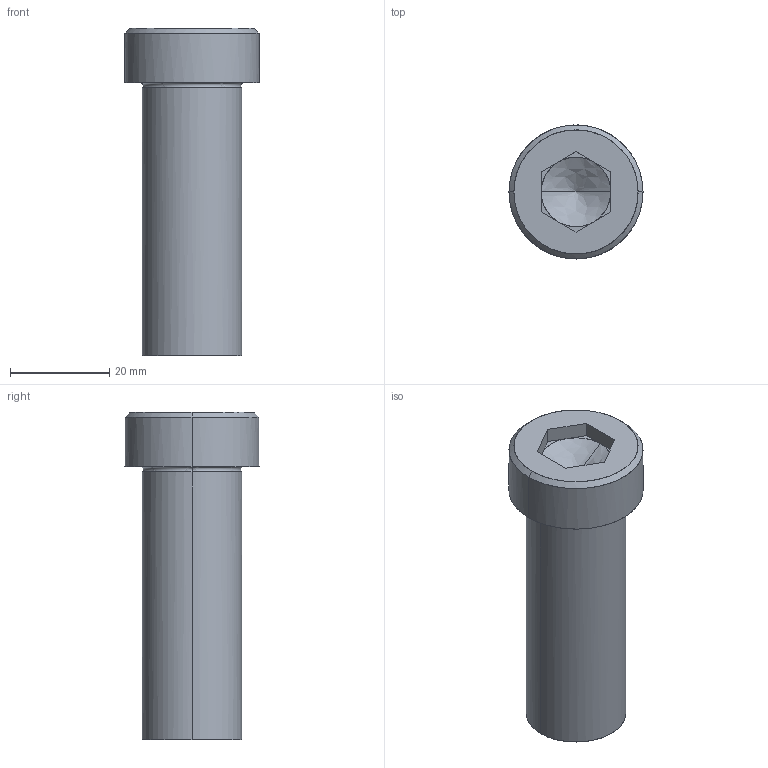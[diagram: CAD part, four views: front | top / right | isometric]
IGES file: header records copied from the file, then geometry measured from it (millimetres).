
Global section: file name: E:\UnigraphicsGraphicData\MISUMI_PRESS-PARTS\IGES\3d_sbtcn20-55_05131_r00.igs; native system: NX V5.0; preprocessor: UGS NX IGES V5.0; author: MISUMI; date: 20110105.162458; units: millimetre
Bounding box: 27 x 27 x 66 mm (x, y, z)
Surface area: 6484.8 mm2 (no closed solid volume)
Topology: 0 solids, 0 shells, 34 faces, 194 edges, 190 vertices
Faces by surface type: bspline 34
